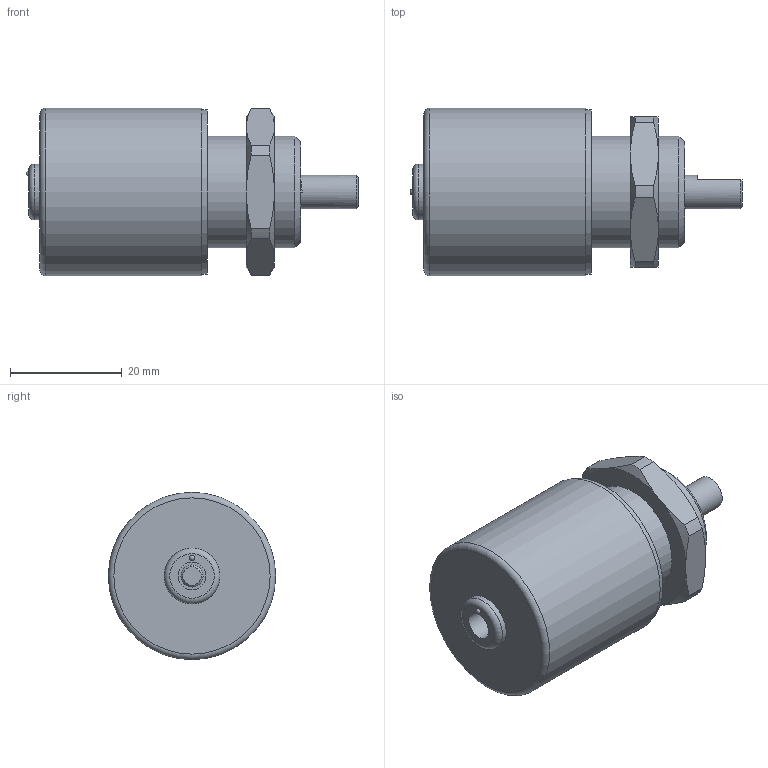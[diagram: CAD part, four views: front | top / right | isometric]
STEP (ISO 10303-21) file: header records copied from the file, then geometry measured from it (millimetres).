
FILE_DESCRIPTION( ( 'Unknown' ), '1' );
FILE_NAME( 'C:/Users/malfermoa/Desktop/step/EL_30I_albero 6.stp', 'Unknown', ( 'Unknown' ), ( 'Unknown' ), 'PSStep 15.0.49', 'Unknown', ' ' );
FILE_SCHEMA( ( 'AUTOMOTIVE_DESIGN { 1 0 10303 214 1 1 1 1 }' ) );
Length unit declared in the file: millimetre
Products named in the file (2): 41330020A1
Bounding box: 59.5 x 30 x 30 mm (x, y, z)
Volume: 13151.1 mm3; surface area: 12551.3 mm2
Topology: 2 solids, 2 shells, 119 faces, 294 edges, 188 vertices
Faces by surface type: plane 43, cylinder 40, cone 23, torus 6, sphere 5, bspline 2
Full cylindrical faces by diameter (mm): 2.013 x2, 3.2 x1, 4 x1, 5 x1, 6 x3, 7.5 x1, 8.5 x2, 10 x2, 10.5 x2, 13 x1, 13.003 x1, 15.003 x1, 20 x2, 27.017 x1, 27.517 x1, 28.004 x1, 29.417 x1, 30 x1
Entity records: 5752 total; most frequent: CARTESIAN_POINT 2318, DIRECTION 532, ORIENTED_EDGE 438, AXIS2_PLACEMENT_3D 240, EDGE_CURVE 219, EDGE_LOOP 187, VERTEX_POINT 166, FACE_OUTER_BOUND 146
